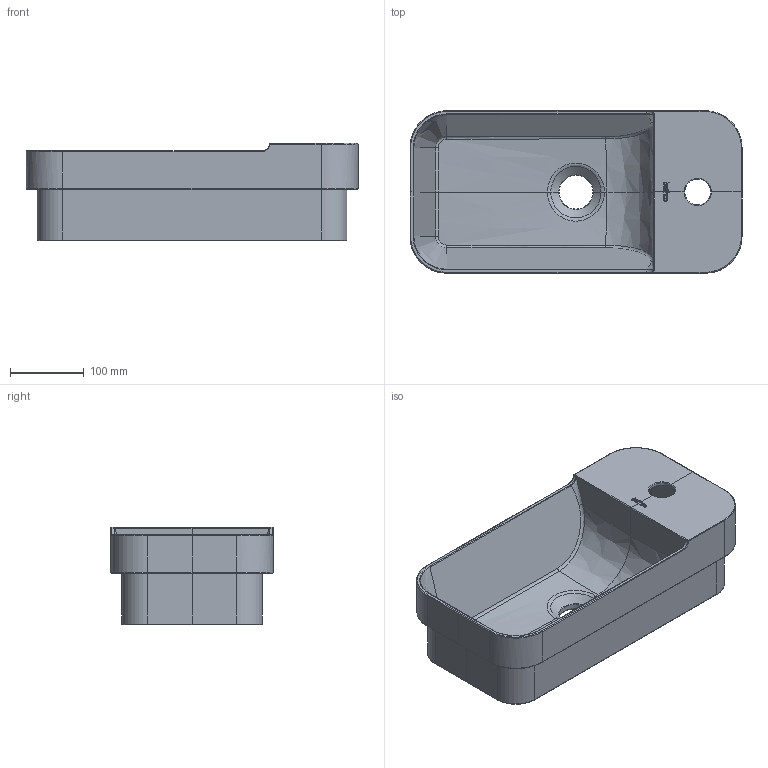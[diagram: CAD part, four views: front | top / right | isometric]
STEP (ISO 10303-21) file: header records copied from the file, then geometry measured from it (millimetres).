
FILE_DESCRIPTION(/* description */ (''),/* implementation_level */ '2;1');
FILE_NAME(/* name */ '6065_TRENTO',/* time_stamp */ '2025-04-01T12:16:05+02:00',/* author */ (''),/* organization */ (''),/* preprocessor_version */ 'ST-DEVELOPER v19.2',/* originating_system */ 'Rhino 8.17',/* authorisation */ '');
FILE_SCHEMA (('CONFIG_CONTROL_DESIGN'));
Length unit declared in the file: millimetre
Products named in the file (1): Document
Bounding box: 450 x 220 x 132.2 mm (x, y, z)
Volume: 2197810.6 mm3; surface area: 498487.1 mm2
Topology: 7 solids, 7 shells, 280 faces, 634 edges, 358 vertices
Faces by surface type: bspline 112, plane 98, cylinder 70
Entity records: 14854 total; most frequent: CARTESIAN_POINT 10083, ORIENTED_EDGE 1256, EDGE_CURVE 628, DIRECTION 454, VERTEX_POINT 358, B_SPLINE_CURVE_WITH_KNOTS 338, AXIS2_PLACEMENT_3D 311, EDGE_LOOP 286
